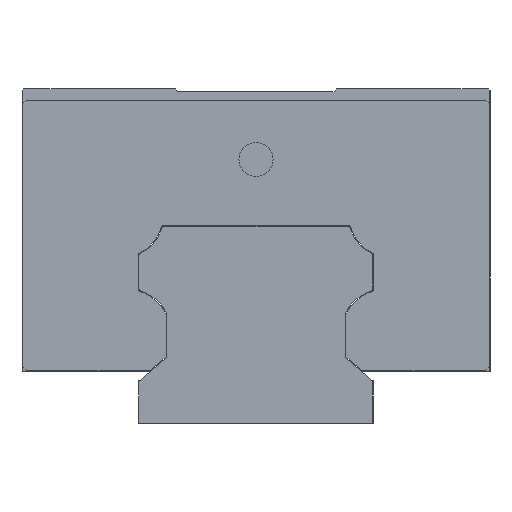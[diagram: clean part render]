
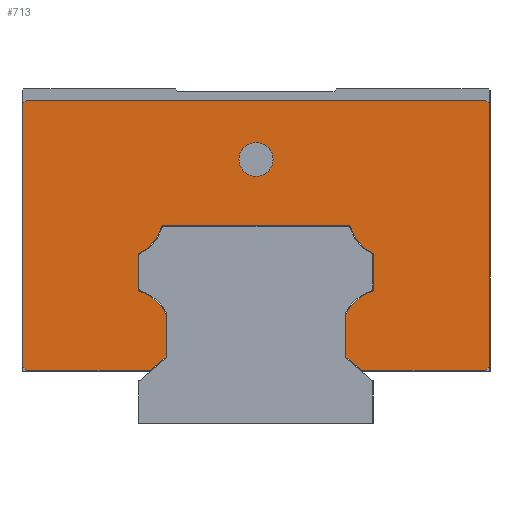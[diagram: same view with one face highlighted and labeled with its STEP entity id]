
A CAD part, left-side view. The second image highlights one B-rep face of the part: STEP entity #713.
In plain terms, the highlighted planar face has unit normal (-1, 0, 0).
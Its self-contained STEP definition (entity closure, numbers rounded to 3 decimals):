
#588=FACE_BOUND('',#975,.T.);
#589=FACE_BOUND('',#976,.T.);
#713=ADVANCED_FACE('',(#588,#589),#821,.F.);
#821=PLANE('',#2521);
#975=EDGE_LOOP('',(#1270));
#976=EDGE_LOOP('',(#1271,#1272,#1273,#1274,#1275,#1276,#1277,#1278,#1279,
#1280,#1281,#1282,#1283,#1284,#1285,#1286,#1287,#1288,#1289,#1290));
#1108=CIRCLE('',#2505,12.1);
#1109=CIRCLE('',#2508,12.1);
#1110=CIRCLE('',#2511,12.1);
#1111=CIRCLE('',#2514,12.1);
#1112=CIRCLE('',#2520,4.588);
#1270=ORIENTED_EDGE('',*,*,#1947,.F.);
#1271=ORIENTED_EDGE('',*,*,#1945,.F.);
#1272=ORIENTED_EDGE('',*,*,#1948,.T.);
#1273=ORIENTED_EDGE('',*,*,#1940,.F.);
#1274=ORIENTED_EDGE('',*,*,#1939,.F.);
#1275=ORIENTED_EDGE('',*,*,#1932,.F.);
#1276=ORIENTED_EDGE('',*,*,#1926,.F.);
#1277=ORIENTED_EDGE('',*,*,#1925,.F.);
#1278=ORIENTED_EDGE('',*,*,#1917,.F.);
#1279=ORIENTED_EDGE('',*,*,#1916,.F.);
#1280=ORIENTED_EDGE('',*,*,#1908,.F.);
#1281=ORIENTED_EDGE('',*,*,#1907,.F.);
#1282=ORIENTED_EDGE('',*,*,#1899,.F.);
#1283=ORIENTED_EDGE('',*,*,#1897,.F.);
#1284=ORIENTED_EDGE('',*,*,#1892,.F.);
#1285=ORIENTED_EDGE('',*,*,#1884,.F.);
#1286=ORIENTED_EDGE('',*,*,#1949,.T.);
#1287=ORIENTED_EDGE('',*,*,#1880,.F.);
#1288=ORIENTED_EDGE('',*,*,#1950,.T.);
#1289=ORIENTED_EDGE('',*,*,#1876,.F.);
#1290=ORIENTED_EDGE('',*,*,#1951,.T.);
#1696=VERTEX_POINT('',#3251);
#1697=VERTEX_POINT('',#3253);
#1700=VERTEX_POINT('',#3260);
#1701=VERTEX_POINT('',#3262);
#1704=VERTEX_POINT('',#3269);
#1705=VERTEX_POINT('',#3271);
#1706=VERTEX_POINT('',#3275);
#1712=VERTEX_POINT('',#3289);
#1717=VERTEX_POINT('',#3301);
#1718=VERTEX_POINT('',#3305);
#1723=VERTEX_POINT('',#3318);
#1724=VERTEX_POINT('',#3322);
#1729=VERTEX_POINT('',#3335);
#1730=VERTEX_POINT('',#3339);
#1735=VERTEX_POINT('',#3352);
#1736=VERTEX_POINT('',#3356);
#1740=VERTEX_POINT('',#3366);
#1746=VERTEX_POINT('',#3380);
#1750=VERTEX_POINT('',#3389);
#1751=VERTEX_POINT('',#3391);
#1752=VERTEX_POINT('',#3395);
#1876=EDGE_CURVE('',#1696,#1697,#2129,.T.);
#1880=EDGE_CURVE('',#1700,#1701,#2133,.T.);
#1884=EDGE_CURVE('',#1704,#1705,#2137,.T.);
#1892=EDGE_CURVE('',#1705,#1706,#2145,.T.);
#1897=EDGE_CURVE('',#1706,#1712,#2150,.T.);
#1899=EDGE_CURVE('',#1712,#1717,#1108,.T.);
#1907=EDGE_CURVE('',#1717,#1718,#2158,.T.);
#1908=EDGE_CURVE('',#1718,#1723,#1109,.T.);
#1916=EDGE_CURVE('',#1723,#1724,#2166,.T.);
#1917=EDGE_CURVE('',#1724,#1729,#1110,.T.);
#1925=EDGE_CURVE('',#1729,#1730,#2174,.T.);
#1926=EDGE_CURVE('',#1730,#1735,#1111,.T.);
#1932=EDGE_CURVE('',#1735,#1736,#2180,.T.);
#1939=EDGE_CURVE('',#1736,#1740,#2187,.T.);
#1940=EDGE_CURVE('',#1740,#1746,#2188,.T.);
#1945=EDGE_CURVE('',#1750,#1751,#2193,.T.);
#1947=EDGE_CURVE('',#1752,#1752,#1112,.T.);
#1948=EDGE_CURVE('',#1750,#1746,#2195,.T.);
#1949=EDGE_CURVE('',#1704,#1701,#2196,.T.);
#1950=EDGE_CURVE('',#1700,#1697,#2197,.T.);
#1951=EDGE_CURVE('',#1696,#1751,#2198,.T.);
#2129=LINE('',#3252,#2313);
#2133=LINE('',#3261,#2317);
#2137=LINE('',#3270,#2321);
#2145=LINE('',#3286,#2329);
#2150=LINE('',#3296,#2334);
#2158=LINE('',#3315,#2342);
#2166=LINE('',#3332,#2350);
#2174=LINE('',#3349,#2358);
#2180=LINE('',#3363,#2364);
#2187=LINE('',#3377,#2371);
#2188=LINE('',#3379,#2372);
#2193=LINE('',#3390,#2377);
#2195=LINE('',#3396,#2379);
#2196=LINE('',#3397,#2380);
#2197=LINE('',#3398,#2381);
#2198=LINE('',#3399,#2382);
#2313=VECTOR('',#2696,1.);
#2317=VECTOR('',#2702,1.);
#2321=VECTOR('',#2708,1.);
#2329=VECTOR('',#2718,1.);
#2334=VECTOR('',#2725,1.);
#2342=VECTOR('',#2741,1.);
#2350=VECTOR('',#2755,1.);
#2358=VECTOR('',#2769,1.);
#2364=VECTOR('',#2781,1.);
#2371=VECTOR('',#2790,1.);
#2372=VECTOR('',#2793,1.);
#2377=VECTOR('',#2800,1.);
#2379=VECTOR('',#2806,1.);
#2380=VECTOR('',#2807,1.);
#2381=VECTOR('',#2808,1.);
#2382=VECTOR('',#2809,1.);
#2505=AXIS2_PLACEMENT_3D('',#3300,#2730,#2731);
#2508=AXIS2_PLACEMENT_3D('',#3317,#2744,#2745);
#2511=AXIS2_PLACEMENT_3D('',#3334,#2758,#2759);
#2514=AXIS2_PLACEMENT_3D('',#3351,#2772,#2773);
#2520=AXIS2_PLACEMENT_3D('',#3394,#2804,#2805);
#2521=AXIS2_PLACEMENT_3D('',#3400,#2810,#2811);
#2696=DIRECTION('',(0.,-1.,0.));
#2702=DIRECTION('',(0.,0.,-1.));
#2708=DIRECTION('',(0.,1.,0.));
#2718=DIRECTION('',(0.,0.766,0.643));
#2725=DIRECTION('',(0.,0.,1.));
#2730=DIRECTION('',(1.,0.,0.));
#2731=DIRECTION('',(0.,1.,0.));
#2741=DIRECTION('',(0.,0.,1.));
#2744=DIRECTION('',(1.,0.,0.));
#2745=DIRECTION('',(0.,1.,0.));
#2755=DIRECTION('',(0.,1.,0.));
#2758=DIRECTION('',(1.,0.,0.));
#2759=DIRECTION('',(0.,-1.,0.));
#2769=DIRECTION('',(0.,0.,-1.));
#2772=DIRECTION('',(1.,0.,0.));
#2773=DIRECTION('',(0.,-1.,0.));
#2781=DIRECTION('',(0.,0.,-1.));
#2790=DIRECTION('',(0.,0.766,-0.643));
#2793=DIRECTION('',(0.,1.,0.));
#2800=DIRECTION('',(0.,0.,1.));
#2804=DIRECTION('',(-1.,0.,0.));
#2805=DIRECTION('',(0.,1.,0.));
#2806=DIRECTION('',(0.,-0.707,-0.707));
#2807=DIRECTION('',(0.,-0.707,0.707));
#2808=DIRECTION('',(0.,0.707,0.707));
#2809=DIRECTION('',(0.,0.707,-0.707));
#2810=DIRECTION('',(1.,0.,0.));
#2811=DIRECTION('',(0.,0.,-1.));
#3251=CARTESIAN_POINT('',(-128.25,61.8,87.));
#3252=CARTESIAN_POINT('',(-128.25,62.8,87.));
#3253=CARTESIAN_POINT('',(-128.25,-61.8,87.));
#3260=CARTESIAN_POINT('',(-128.25,-62.8,86.));
#3261=CARTESIAN_POINT('',(-128.25,-62.8,87.));
#3262=CARTESIAN_POINT('',(-128.25,-62.8,15.2));
#3269=CARTESIAN_POINT('',(-128.25,-61.8,14.2));
#3270=CARTESIAN_POINT('',(-128.25,-62.8,14.2));
#3271=CARTESIAN_POINT('',(-128.25,-28.435,14.2));
#3275=CARTESIAN_POINT('',(-128.25,-24.192,17.76));
#3286=CARTESIAN_POINT('',(-128.25,-28.435,14.2));
#3289=CARTESIAN_POINT('',(-128.25,-24.192,29.351));
#3296=CARTESIAN_POINT('',(-128.25,-24.192,17.76));
#3300=CARTESIAN_POINT('',(-128.25,-35.057,24.026));
#3301=CARTESIAN_POINT('',(-128.25,-31.7,35.651));
#3305=CARTESIAN_POINT('',(-128.25,-31.7,45.565));
#3315=CARTESIAN_POINT('',(-128.25,-31.7,35.651));
#3317=CARTESIAN_POINT('',(-128.25,-36.943,56.47));
#3318=CARTESIAN_POINT('',(-128.25,-25.293,53.2));
#3322=CARTESIAN_POINT('',(-128.25,25.293,53.2));
#3332=CARTESIAN_POINT('',(-128.25,-25.293,53.2));
#3334=CARTESIAN_POINT('',(-128.25,36.943,56.47));
#3335=CARTESIAN_POINT('',(-128.25,31.7,45.565));
#3339=CARTESIAN_POINT('',(-128.25,31.7,35.651));
#3349=CARTESIAN_POINT('',(-128.25,31.7,45.565));
#3351=CARTESIAN_POINT('',(-128.25,35.057,24.026));
#3352=CARTESIAN_POINT('',(-128.25,24.192,29.351));
#3356=CARTESIAN_POINT('',(-128.25,24.192,17.76));
#3363=CARTESIAN_POINT('',(-128.25,24.192,29.351));
#3366=CARTESIAN_POINT('',(-128.25,28.435,14.2));
#3377=CARTESIAN_POINT('',(-128.25,24.192,17.76));
#3379=CARTESIAN_POINT('',(-128.25,28.435,14.2));
#3380=CARTESIAN_POINT('',(-128.25,61.8,14.2));
#3389=CARTESIAN_POINT('',(-128.25,62.8,15.2));
#3390=CARTESIAN_POINT('',(-128.25,62.8,14.2));
#3391=CARTESIAN_POINT('',(-128.25,62.8,86.));
#3394=CARTESIAN_POINT('',(-128.25,0.,71.));
#3395=CARTESIAN_POINT('',(-128.25,4.588,71.));
#3396=CARTESIAN_POINT('',(-128.25,61.8,14.2));
#3397=CARTESIAN_POINT('',(-128.25,-62.8,15.2));
#3398=CARTESIAN_POINT('',(-128.25,-61.8,87.));
#3399=CARTESIAN_POINT('',(-128.25,62.8,86.));
#3400=CARTESIAN_POINT('',(-128.25,-35.057,24.026));
